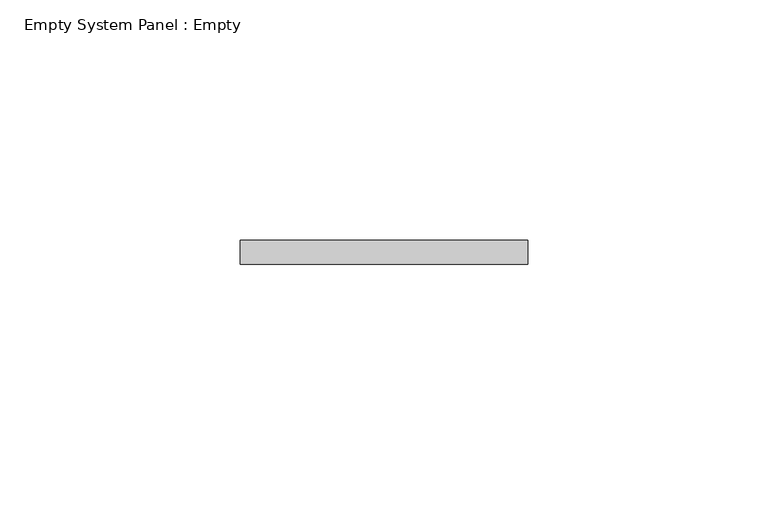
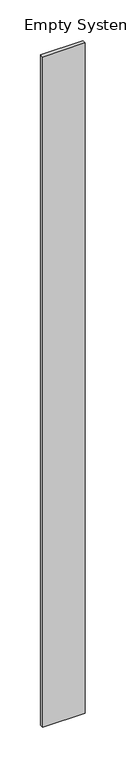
"""IFC4 building model written with IfcOpenShell, lengths in millimetres: plate geometry, Empty System Panel : Empty."""

from ifc_helpers import new_model, si_unit, origin, origin_with_axes, place, context, project, spatial, polyline, outline, extrude, source, transform, mapped, element, save


def empty_system_panel_empty_fce85d88(model_context):
    return source(origin(), model_context, "Body", "SweptSolid", [
        extrude(outline(polyline([(29.9999998, 97.5), (-29.9999998, 97.5), (-29.9999998, 102.5), (29.9999998, 102.5), (29.9999998, 97.5)])), origin_with_axes(), (0.0, 0.0, 1.0), 1000.0),
    ])


if __name__ == "__main__":
    model = new_model("IFC4")
    model_context = context("Model", 3, world=origin())
    ifc_project = project(units=[si_unit("LENGTHUNIT", "METRE", prefix="MILLI")], contexts=[model_context])
    site = spatial("IfcSite", under=ifc_project)
    building = spatial("IfcBuilding", under=site)
    placement = place(None, origin())
    empty_system_panel_empty_shape = empty_system_panel_empty_fce85d88(model_context)
    element("IfcPlate", 1, ObjectType="Empty System Panel : Empty", at=placement, inside=building, context=model_context, shape_type="MappedRepresentation", body=[
        mapped(empty_system_panel_empty_shape, transform((0.0, 0.0, 0.0), x_axis=(1.0, 0.0, 0.0), y_axis=(0.0, 1.0, 0.0), z_axis=(0.0, 0.0, 1.0))),
    ])
    save(model, "model.ifc")
